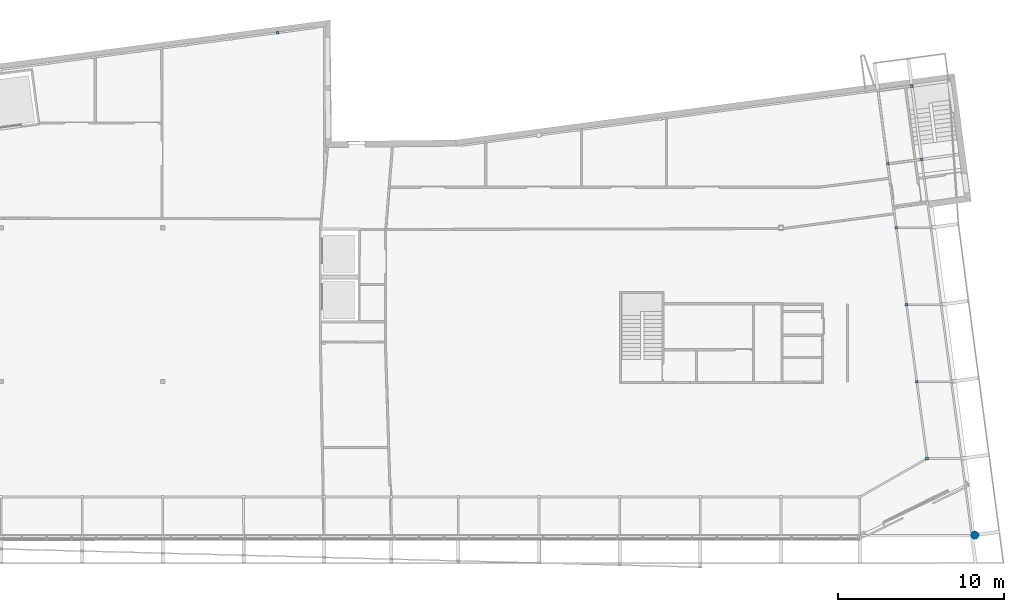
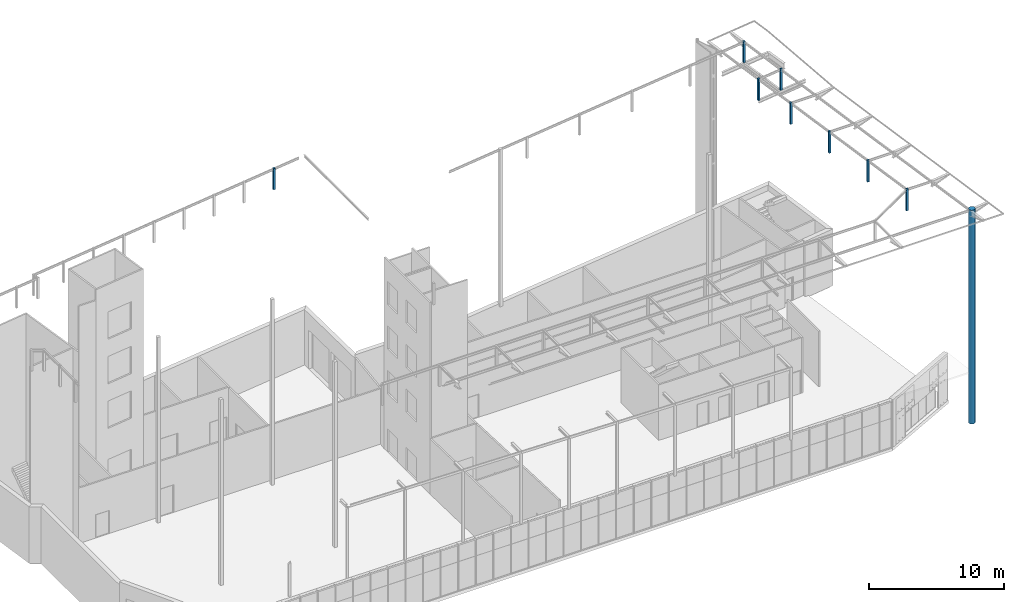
# One storey, part 4 of 40: 9 columns.
"""IFC2X3 building model written with IfcOpenShell, lengths in metres."""

from ifc_helpers import new_model, entity, si_unit, converted_unit, money_unit, direction, frame, origin_with_axes, origin_2d_with_axis, place, context, subcontext, project, spatial, rectangle, circle, extrude, material, type_object, element, save


model = new_model("IFC2X3")

# Units and contexts
model_context = context("Model", 3, precision=1e-05, world=origin_with_axes(), true_north=direction((0.0, 1.0)))
body_context = subcontext(model_context, "Body", "Model", "MODEL_VIEW")
ifc_project = project(units=[si_unit("LENGTHUNIT", "METRE"), si_unit("AREAUNIT", "SQUARE_METRE"), si_unit("VOLUMEUNIT", "CUBIC_METRE"), converted_unit("PLANEANGLEUNIT", "DEGREE", entity("IfcPlaneAngleMeasure", 0.0174532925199), si_unit("PLANEANGLEUNIT", "RADIAN"), dimensions=[0, 0, 0, 0, 0, 0, 0]), si_unit("SOLIDANGLEUNIT", "STERADIAN"), money_unit("EUR"), converted_unit("TIMEUNIT", "Year", entity("IfcTimeMeasure", 31556926.0), si_unit("TIMEUNIT", "SECOND"), dimensions=[0, 0, 0, 0, 0, 0, 0]), si_unit("MASSUNIT", "GRAM"), si_unit("THERMODYNAMICTEMPERATUREUNIT", "DEGREE_CELSIUS"), si_unit("LUMINOUSINTENSITYUNIT", "LUMEN")], contexts=[model_context])

# Site, building, storey
site_placement = place(None, origin_with_axes())
site = spatial("IfcSite", under=ifc_project, at=site_placement, Name="Undefined", CompositionType="ELEMENT")
building_placement = place(site_placement, origin_with_axes())
building = spatial("IfcBuilding", under=site, at=building_placement, Name="Undefined", CompositionType="ELEMENT")
storey_placement = place(building_placement, origin_with_axes())
storey = spatial("IfcBuildingStorey", under=building, at=storey_placement, Name="Rez de chauss\x8ee", CompositionType="ELEMENT", Elevation=0.0)

# Columns
ifc_material = material(Name="STEEL/S235JRG2 3386696625")
column_type_1 = type_object("IfcColumnType", Name="HEB160", PredefinedType="NOTDEFINED")
column_1_placement = place(storey_placement, frame((65.3501723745, 22.726218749, 17.2), z_axis=(0.0, 0.0, 1.0), x_axis=(0.0, -1.0, 0.0)))
element("IfcColumn", 1, at=column_1_placement, inside=storey, type_object=column_type_1, material=ifc_material, Name="Column", ObjectType="COLUMN", context=body_context, shape_type="SweptSolid", body=[
    extrude(rectangle(XDim=0.16, YDim=0.16, at=origin_2d_with_axis()), origin_with_axes(), (0.0, 0.0, 1.0), 1.925),
])
column_2_placement = place(storey_placement, frame((65.0532705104, 9.29999997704, 17.16), z_axis=(0.0, 0.0, 1.0), x_axis=(0.0, -1.0, 0.0)))
element("IfcColumn", 2, at=column_2_placement, inside=storey, type_object=column_type_1, material=ifc_material, Name="Column", ObjectType="COLUMN", context=body_context, shape_type="SweptSolid", body=[
    extrude(rectangle(XDim=0.16, YDim=0.16, at=origin_2d_with_axis()), origin_with_axes(), (0.0, 0.0, 1.0), 1.965),
])
column_3_placement = place(storey_placement, frame((64.7585009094, 27.1605824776, 17.2), z_axis=(0.0, 0.0, 1.0), x_axis=(0.0, -1.0, 0.0)))
element("IfcColumn", 3, at=column_3_placement, inside=storey, type_object=column_type_1, material=ifc_material, Name="Column", ObjectType="COLUMN", context=body_context, shape_type="SweptSolid", body=[
    extrude(rectangle(XDim=0.16, YDim=0.16, at=origin_2d_with_axis()), origin_with_axes(), (0.0, 0.0, 1.0), 1.925),
])
for number, where, z_axis, x_axis, name in (
    (4, (65.6737139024, 4.64999987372, 17.16), (0.0, 0.0, 1.0), (0.0, -1.0, 0.0), "Column"),
    (5, (63.8122512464, 18.6009907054, 17.16), (0.0, 0.0, 1.0), (0.0, -1.0, 0.0), "Column"),
    (6, (64.4328269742, 13.949999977, 17.16), (0.0, 0.0, 1.0), (0.0, -1.0, 0.0), "Column"),
    (7, (63.2881028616, 22.4510794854, 17.16), (0.0, 0.0, 1.0), (0.0, -1.0, 0.0), "Column"),
):
    element("IfcColumn", number, at=place(storey_placement, frame(where, z_axis=z_axis, x_axis=x_axis)), inside=storey, type_object=column_type_1, material=ifc_material, Name=name, ObjectType="COLUMN", context=body_context, shape_type="SweptSolid", body=[
        extrude(rectangle(XDim=0.16, YDim=0.16, at=origin_2d_with_axis()), origin_with_axes(), (0.0, 0.0, 1.0), 1.965),
    ])
column_type_2 = type_object("IfcColumnType", Name="HEB260", PredefinedType="NOTDEFINED")
column_4_placement = place(storey_placement, frame((68.5622451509, 0.0223674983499, -0.195), z_axis=(0.0, 0.0, 1.0), x_axis=(0.139173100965, -0.990268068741, 0.0)))
element("IfcColumn", 8, at=column_4_placement, inside=storey, type_object=column_type_2, material=ifc_material, Name="POTEAU", ObjectType="260*260", context=body_context, shape_type="SweptSolid", body=[
    extrude(circle(Radius=0.25, at=origin_2d_with_axis()), origin_with_axes(), (0.0, 0.0, 1.0), 19.32),
])
column_type_3 = type_object("IfcColumnType", Name="STEEL/S235JRG2 3386696625 160 x 160", PredefinedType="NOTDEFINED")
column_5_placement = place(storey_placement, frame((26.4381011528, 30.3742213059, 17.2), z_axis=(0.0, 0.0, 1.0), x_axis=(0.132247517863, -0.991216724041, 0.0)))
element("IfcColumn", 9, at=column_5_placement, inside=storey, type_object=column_type_3, material=ifc_material, Name="Column", ObjectType="COLUMN", context=body_context, shape_type="SweptSolid", body=[
    extrude(rectangle(XDim=0.16, YDim=0.16, at=origin_2d_with_axis()), origin_with_axes(), (0.0, 0.0, 1.0), 1.925),
])

save(model, "model.ifc")
